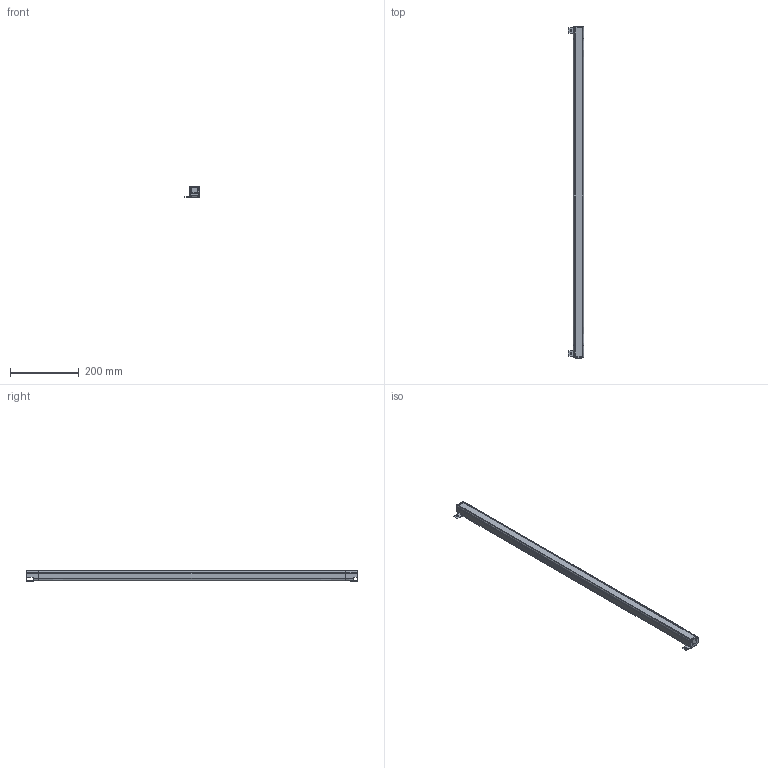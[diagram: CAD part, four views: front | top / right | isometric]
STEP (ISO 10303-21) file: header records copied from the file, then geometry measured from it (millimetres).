
FILE_DESCRIPTION(/* description */ (''),/* implementation_level */ '2;1');
FILE_NAME(/* name */ '2440(30X30).stp',/* time_stamp */ '2020-07-10T20:21:45+08:00',/* author */ (''),/* organization */ (''),/* preprocessor_version */ 'ST-DEVELOPER v16',/* originating_system */ 'SIEMENS PLM Software NX 10.0',/* authorisation */ '');
FILE_SCHEMA (('AP203_CONFIGURATION_CONTROLLED_3D_DESIGN_OF_MECHANICAL_PARTS_AND_ASSEMBLIES_MIM_LF { 1 0 10303 403 2 1 2}'));
Length unit declared in the file: millimetre
Products named in the file (1): Admi58A03253m5p1
Bounding box: 44.89 x 968.4 x 31.39 mm (x, y, z)
Volume: 299605.8 mm3; surface area: 319114.4 mm2
Topology: 6 solids, 6 shells, 441 faces, 1311 edges, 871 vertices
Faces by surface type: plane 256, cylinder 132, cone 32, bspline 14, extrusion 7
Full cylindrical faces by diameter (mm): 1.5 x2, 3.2 x8, 3.5 x8
Entity records: 15674 total; most frequent: CARTESIAN_POINT 3867, ORIENTED_EDGE 2528, DIRECTION 2314, EDGE_CURVE 1264, VECTOR 856, VERTEX_POINT 855, LINE 849, AXIS2_PLACEMENT_3D 729
